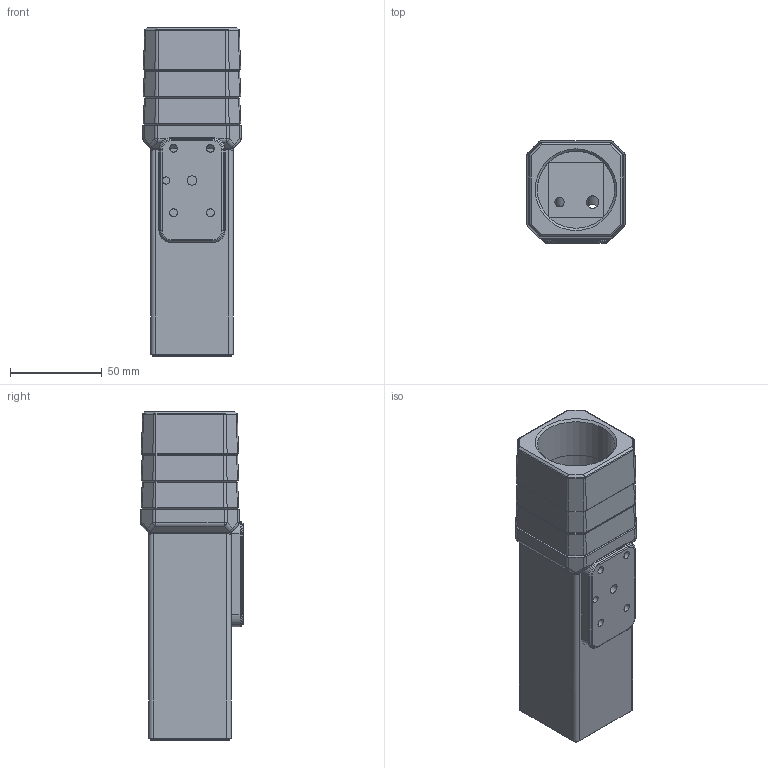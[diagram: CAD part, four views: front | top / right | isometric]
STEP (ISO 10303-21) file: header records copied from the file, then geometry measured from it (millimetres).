
FILE_DESCRIPTION (( 'STEP AP214' ), '1' );
FILE_NAME ('GET_CAM_Housing_Base+30mm_Outside_2021_2_16.STEP', '2021-02-16T14:20:38', ( '' ), ( '' ), 'SwSTEP 2.0', 'SolidWorks 2020', '' );
FILE_SCHEMA (( 'AUTOMOTIVE_DESIGN' ));
Length unit declared in the file: millimetre
Products named in the file (1): GET_CAM_Housing_Base+30mm_Outside_2021_2_16
Bounding box: 53.5 x 55.75 x 178.8 mm (x, y, z)
Volume: 239425.6 mm3; surface area: 66494.2 mm2
Topology: 4 solids, 4 shells, 317 faces, 710 edges, 404 vertices
Faces by surface type: plane 123, cone 81, cylinder 69, torus 20, sphere 12, bspline 12
Full cylindrical faces by diameter (mm): 4 x1, 4.2 x4, 5 x1, 5.105 x1, 6.5 x1, 42 x3
Entity records: 8677 total; most frequent: CARTESIAN_POINT 1696, DIRECTION 1520, ORIENTED_EDGE 1374, EDGE_CURVE 687, AXIS2_PLACEMENT_3D 563, VERTEX_POINT 397, LINE 394, VECTOR 394
